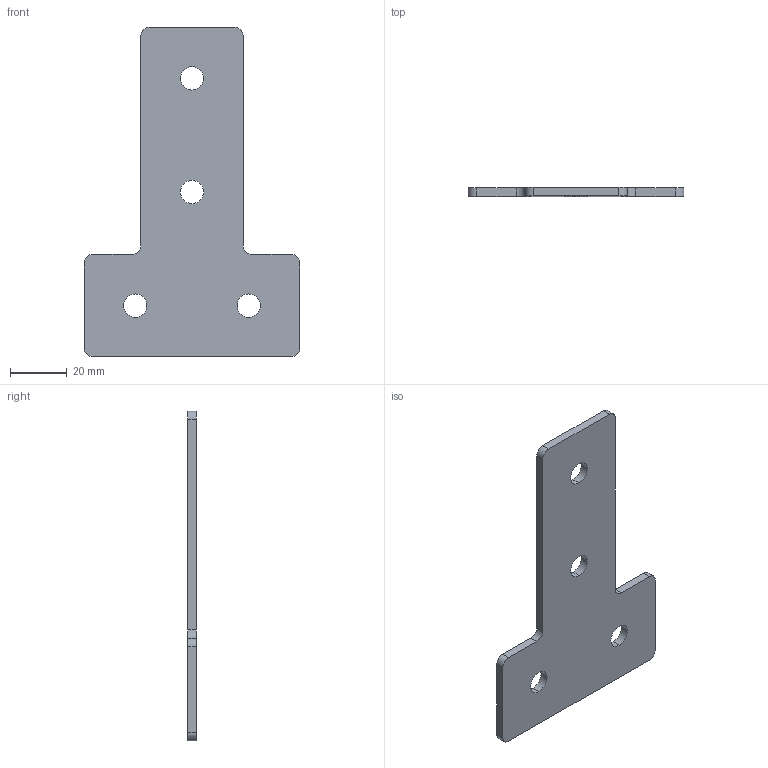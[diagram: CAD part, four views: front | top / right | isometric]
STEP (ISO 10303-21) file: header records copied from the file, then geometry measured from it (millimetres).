
FILE_DESCRIPTION (( 'STEP AP203' ), '1' );
FILE_NAME ('ﾒ-4-40.STEP', '2016-07-22T09:14:07', ( '' ), ( '' ), 'SwSTEP 2.0', 'SolidWorks 2014', '' );
FILE_SCHEMA (( 'CONFIG_CONTROL_DESIGN' ));
Length unit declared in the file: millimetre
Products named in the file (1): ﾒ-4-40
Bounding box: 76 x 3 x 116 mm (x, y, z)
Surface area: 12224.3 mm2 (no closed solid volume)
Topology: 0 solids, 1 shells, 26 faces, 72 edges, 48 vertices
Faces by surface type: cylinder 16, plane 10
Entity records: 941 total; most frequent: DIRECTION 158, CARTESIAN_POINT 147, ORIENTED_EDGE 144, EDGE_CURVE 72, AXIS2_PLACEMENT_3D 59, VERTEX_POINT 48, LINE 40, VECTOR 40
